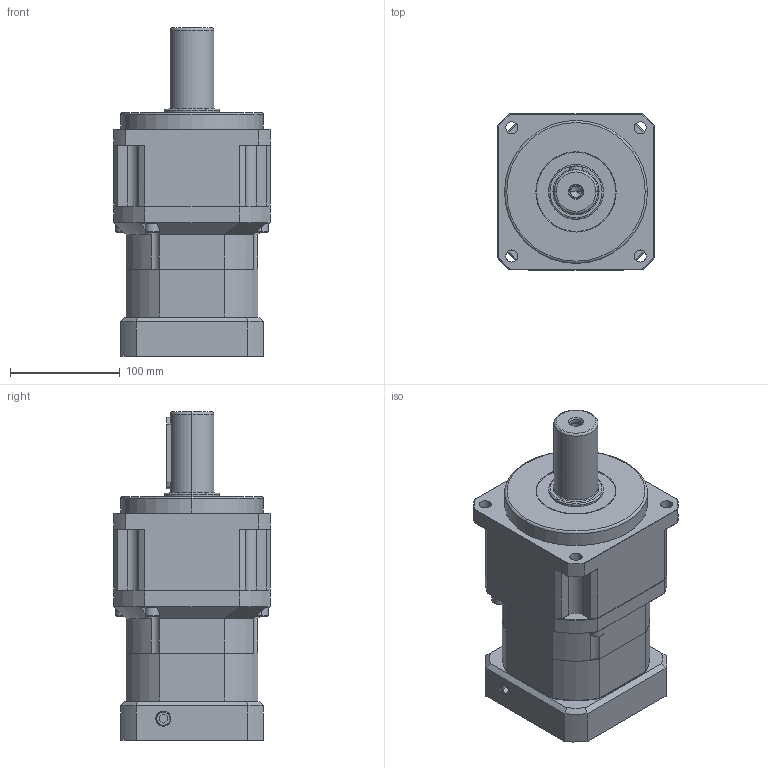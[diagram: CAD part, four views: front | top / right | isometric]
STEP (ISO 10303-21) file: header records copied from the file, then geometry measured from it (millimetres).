
FILE_DESCRIPTION (( 'STEP AP203' ), '1' );
FILE_NAME ('SB142-2-110M8-3.STEP', '2011-07-11T08:51:02', ( '1' ), ( '' ), 'SwSTEP 2.0', 'SolidWorks 2011', '' );
FILE_SCHEMA (( 'CONFIG_CONTROL_DESIGN' ));
Length unit declared in the file: millimetre
Products named in the file (1): SB142-2-110M8-3
Bounding box: 142 x 142 x 298.5 mm (x, y, z)
Volume: 3091300.1 mm3; surface area: 342689 mm2
Topology: 21 solids, 21 shells, 856 faces, 2043 edges, 1256 vertices
Faces by surface type: plane 359, cylinder 278, cone 143, torus 41, bspline 33, sphere 2
Entity records: 26683 total; most frequent: CARTESIAN_POINT 6798, DIRECTION 4253, ORIENTED_EDGE 4012, EDGE_CURVE 2006, AXIS2_PLACEMENT_3D 1614, VERTEX_POINT 1255, VECTOR 1025, LINE 1025
